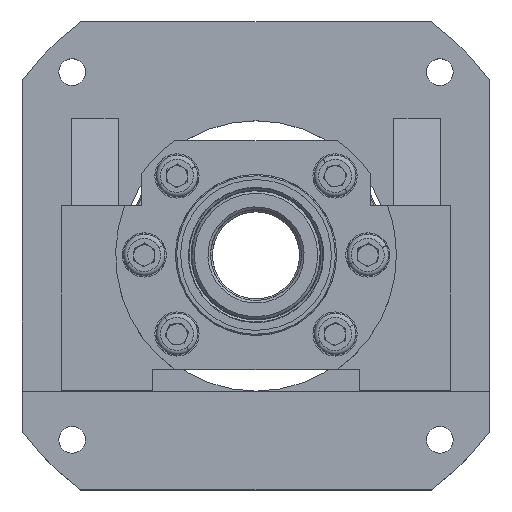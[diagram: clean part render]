
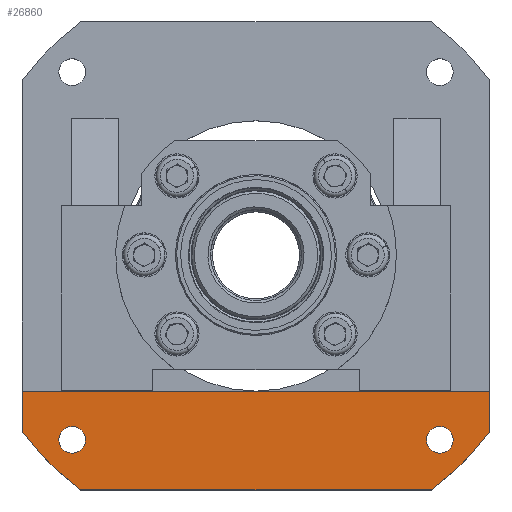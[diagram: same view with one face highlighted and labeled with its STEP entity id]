
A CAD part, top view. The second image highlights one B-rep face of the part: STEP entity #26860.
In plain terms, the highlighted planar face has unit normal (0, 0, 1).
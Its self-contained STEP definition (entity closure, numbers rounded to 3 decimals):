
#439 = CARTESIAN_POINT ( 'NONE',  ( -70.711, -70.711, 21. ) ) ;
#810 = CARTESIAN_POINT ( 'NONE',  ( -90., -90., 21. ) ) ;
#1273 = ORIENTED_EDGE ( 'NONE', *, *, #13026, .F. ) ;
#1303 = FACE_OUTER_BOUND ( 'NONE', #6783, .T. ) ;
#1824 = ORIENTED_EDGE ( 'NONE', *, *, #13562, .T. ) ;
#1932 = DIRECTION ( 'NONE',  ( 0., -1., 0. ) ) ;
#2783 = DIRECTION ( 'NONE',  ( 1., 0., 0. ) ) ;
#2881 = DIRECTION ( 'NONE',  ( 1., 0., 0. ) ) ;
#3207 = CARTESIAN_POINT ( 'NONE',  ( 70.711, -70.711, 21. ) ) ;
#3212 = EDGE_LOOP ( 'NONE', ( #1273, #26462 ) ) ;
#3466 = CIRCLE ( 'NONE', #25676, 5.15 ) ;
#3700 = ORIENTED_EDGE ( 'NONE', *, *, #23663, .T. ) ;
#3727 = CARTESIAN_POINT ( 'NONE',  ( -67.5, -90., 21. ) ) ;
#3797 = VECTOR ( 'NONE', #25315, 1000. ) ;
#3814 = EDGE_CURVE ( 'NONE', #29193, #29268, #28097, .T. ) ;
#3868 = ORIENTED_EDGE ( 'NONE', *, *, #3941, .F. ) ;
#3885 = ORIENTED_EDGE ( 'NONE', *, *, #12186, .T. ) ;
#3941 = EDGE_CURVE ( 'NONE', #19910, #4820, #7892, .T. ) ;
#4359 = DIRECTION ( 'NONE',  ( 0., 0., 1. ) ) ;
#4820 = VERTEX_POINT ( 'NONE', #10125 ) ;
#5522 = AXIS2_PLACEMENT_3D ( 'NONE', #18424, #4359, #20778 ) ;
#5564 = DIRECTION ( 'NONE',  ( 1., 0., 0. ) ) ;
#6512 = EDGE_CURVE ( 'NONE', #17086, #29692, #26235, .T. ) ;
#6783 = EDGE_LOOP ( 'NONE', ( #3868, #21490, #1824, #3885, #10143, #3700 ) ) ;
#7645 = EDGE_CURVE ( 'NONE', #27423, #30408, #3466, .T. ) ;
#7892 = LINE ( 'NONE', #21648, #13408 ) ;
#7990 = CARTESIAN_POINT ( 'NONE',  ( 70.711, -70.711, 21. ) ) ;
#8218 = CIRCLE ( 'NONE', #12510, 5.15 ) ;
#8593 = DIRECTION ( 'NONE',  ( 1., 0., 0. ) ) ;
#8964 = DIRECTION ( 'NONE',  ( 0., 0., 1. ) ) ;
#9287 = VECTOR ( 'NONE', #1932, 1000. ) ;
#9491 = CARTESIAN_POINT ( 'NONE',  ( 90., -67.5, 21. ) ) ;
#9643 = AXIS2_PLACEMENT_3D ( 'NONE', #24204, #10135, #26536 ) ;
#10015 = LINE ( 'NONE', #13628, #3797 ) ;
#10125 = CARTESIAN_POINT ( 'NONE',  ( 90., -52.01, 21. ) ) ;
#10135 = DIRECTION ( 'NONE',  ( 0., 0., 1. ) ) ;
#10143 = ORIENTED_EDGE ( 'NONE', *, *, #6512, .T. ) ;
#10333 = DIRECTION ( 'NONE',  ( 1., 0., 0. ) ) ;
#10492 = VERTEX_POINT ( 'NONE', #3727 ) ;
#10680 = CARTESIAN_POINT ( 'NONE',  ( 65.561, -70.711, 21. ) ) ;
#10969 = ORIENTED_EDGE ( 'NONE', *, *, #27930, .F. ) ;
#11031 = CARTESIAN_POINT ( 'NONE',  ( -75.861, -70.711, 21. ) ) ;
#11429 = ORIENTED_EDGE ( 'NONE', *, *, #7645, .F. ) ;
#12186 = EDGE_CURVE ( 'NONE', #10492, #17086, #27653, .T. ) ;
#12510 = AXIS2_PLACEMENT_3D ( 'NONE', #7990, #24403, #10333 ) ;
#12697 = EDGE_LOOP ( 'NONE', ( #10969, #11429 ) ) ;
#12773 = EDGE_CURVE ( 'NONE', #19910, #30417, #21766, .T. ) ;
#13026 = EDGE_CURVE ( 'NONE', #29268, #29193, #14056, .T. ) ;
#13408 = VECTOR ( 'NONE', #2881, 1000. ) ;
#13562 = EDGE_CURVE ( 'NONE', #30417, #10492, #26859, .T. ) ;
#13628 = CARTESIAN_POINT ( 'NONE',  ( 90., 90., 21. ) ) ;
#13789 = FACE_BOUND ( 'NONE', #12697, .T. ) ;
#14056 = CIRCLE ( 'NONE', #5522, 5.15 ) ;
#15158 = VECTOR ( 'NONE', #17113, 1000. ) ;
#16835 = DIRECTION ( 'NONE',  ( 0., 0., 1. ) ) ;
#17086 = VERTEX_POINT ( 'NONE', #28467 ) ;
#17113 = DIRECTION ( 'NONE',  ( 1., 0., 0. ) ) ;
#18424 = CARTESIAN_POINT ( 'NONE',  ( -70.711, -70.711, 21. ) ) ;
#19619 = DIRECTION ( 'NONE',  ( 0., 0., 1. ) ) ;
#19757 = AXIS2_PLACEMENT_3D ( 'NONE', #439, #16835, #2783 ) ;
#19910 = VERTEX_POINT ( 'NONE', #24701 ) ;
#20012 = AXIS2_PLACEMENT_3D ( 'NONE', #20312, #22667, #8593 ) ;
#20184 = CARTESIAN_POINT ( 'NONE',  ( -65.561, -70.711, 21. ) ) ;
#20312 = CARTESIAN_POINT ( 'NONE',  ( -104.626, -112., 21. ) ) ;
#20712 = CARTESIAN_POINT ( 'NONE',  ( -90., 90., 21. ) ) ;
#20778 = DIRECTION ( 'NONE',  ( 1., 0., 0. ) ) ;
#21068 = CARTESIAN_POINT ( 'NONE',  ( 75.861, -70.711, 21. ) ) ;
#21490 = ORIENTED_EDGE ( 'NONE', *, *, #12773, .T. ) ;
#21648 = CARTESIAN_POINT ( 'NONE',  ( -91.047, -52.01, 21. ) ) ;
#21766 = LINE ( 'NONE', #20712, #9287 ) ;
#22667 = DIRECTION ( 'NONE',  ( 0., 0., 1. ) ) ;
#23042 = CARTESIAN_POINT ( 'NONE',  ( 0., 0., 21. ) ) ;
#23663 = EDGE_CURVE ( 'NONE', #29692, #4820, #10015, .T. ) ;
#24204 = CARTESIAN_POINT ( 'NONE',  ( 0., 0., 21. ) ) ;
#24403 = DIRECTION ( 'NONE',  ( 0., 0., 1. ) ) ;
#24698 = PLANE ( 'NONE',  #20012 ) ;
#24701 = CARTESIAN_POINT ( 'NONE',  ( -90., -52.01, 21. ) ) ;
#24746 = CARTESIAN_POINT ( 'NONE',  ( -90., -67.5, 21. ) ) ;
#25315 = DIRECTION ( 'NONE',  ( 0., 1., 0. ) ) ;
#25372 = DIRECTION ( 'NONE',  ( 1., 0., 0. ) ) ;
#25676 = AXIS2_PLACEMENT_3D ( 'NONE', #3207, #19619, #5564 ) ;
#26235 = CIRCLE ( 'NONE', #26818, 112.5 ) ;
#26236 = FACE_BOUND ( 'NONE', #3212, .T. ) ;
#26462 = ORIENTED_EDGE ( 'NONE', *, *, #3814, .F. ) ;
#26536 = DIRECTION ( 'NONE',  ( 1., 0., 0. ) ) ;
#26818 = AXIS2_PLACEMENT_3D ( 'NONE', #23042, #8964, #25372 ) ;
#26859 = CIRCLE ( 'NONE', #9643, 112.5 ) ;
#26860 = ADVANCED_FACE ( 'NONE', ( #1303, #13789, #26236 ), #24698, .T. ) ;
#27423 = VERTEX_POINT ( 'NONE', #21068 ) ;
#27653 = LINE ( 'NONE', #810, #15158 ) ;
#27930 = EDGE_CURVE ( 'NONE', #30408, #27423, #8218, .T. ) ;
#28097 = CIRCLE ( 'NONE', #19757, 5.15 ) ;
#28467 = CARTESIAN_POINT ( 'NONE',  ( 67.5, -90., 21. ) ) ;
#29193 = VERTEX_POINT ( 'NONE', #20184 ) ;
#29268 = VERTEX_POINT ( 'NONE', #11031 ) ;
#29692 = VERTEX_POINT ( 'NONE', #9491 ) ;
#30408 = VERTEX_POINT ( 'NONE', #10680 ) ;
#30417 = VERTEX_POINT ( 'NONE', #24746 ) ;
